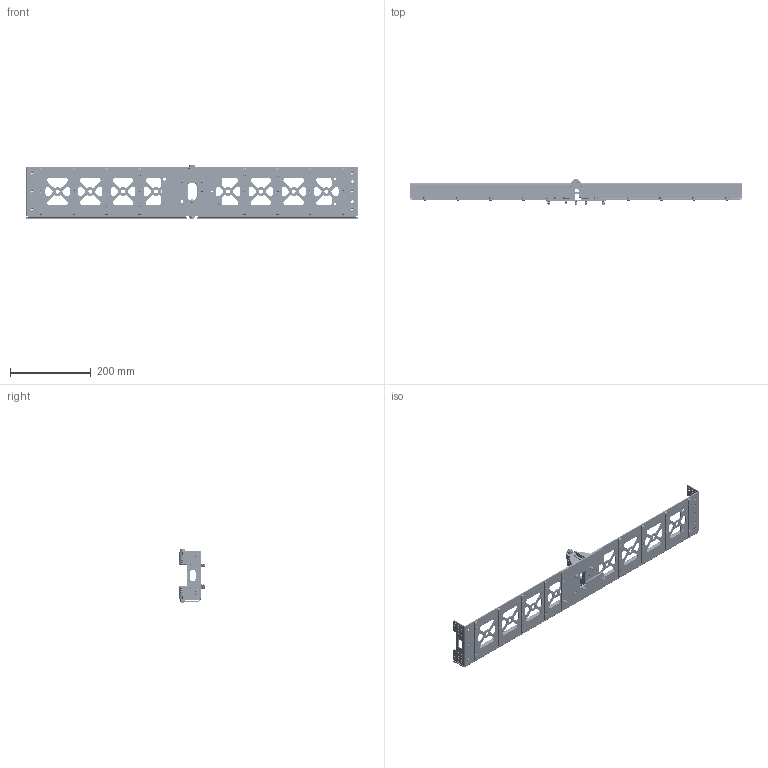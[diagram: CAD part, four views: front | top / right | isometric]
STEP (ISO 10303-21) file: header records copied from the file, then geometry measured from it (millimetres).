
FILE_DESCRIPTION (( 'STEP AP214' ), '1' );
FILE_NAME ('710-02068-A DCSA 9 Panel - Deployed.STEP', '2019-02-05T23:30:25', ( '' ), ( '' ), 'SwSTEP 2.0', 'SolidWorks 2014', '' );
FILE_SCHEMA (( 'AUTOMOTIVE_DESIGN' ));
Length unit declared in the file: inch
Products named in the file (2): 710-02068-A DCSA 9 Panel - Deployed
Bounding box: 822.61 x 66.06 x 136.27 mm (x, y, z)
Volume: 420284 mm3; surface area: 337514.1 mm2
Topology: 12 solids, 248 shells, 9632 faces, 21630 edges, 12311 vertices
Faces by surface type: cone 4286, plane 2975, cylinder 2094, torus 148, bspline 93, sphere 36
Entity records: 333709 total; most frequent: CARTESIAN_POINT 120180, DIRECTION 46398, ORIENTED_EDGE 43188, EDGE_CURVE 21594, AXIS2_PLACEMENT_3D 17637, VERTEX_POINT 12311, LINE 11124, VECTOR 11124
